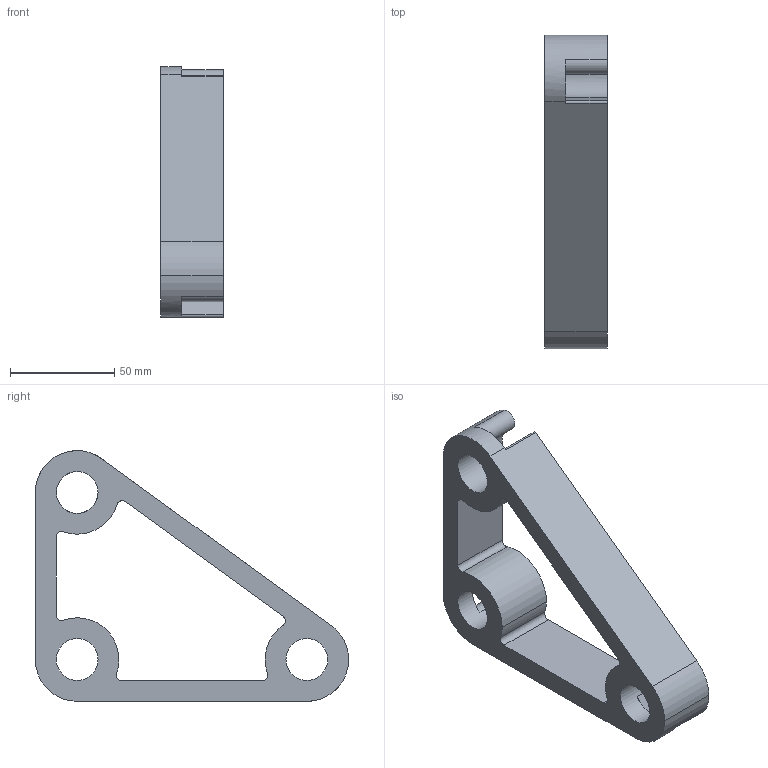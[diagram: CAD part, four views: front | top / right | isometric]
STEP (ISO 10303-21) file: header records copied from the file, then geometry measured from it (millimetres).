
FILE_DESCRIPTION(('HOOPS Exchange Step'),'2;1');
FILE_NAME('/private/var/mobile/Containers/Data/Application/E34E9B9D-13F5-4398-A6D4-3D2E6F602CF2/tmp/export/temp_export','2023-02-19T17:34:32-06:00',('mobile'),('Shapr3D Limited'),'HOOPS Exchange 2022.2','Shapr3D','Authorized');
FILE_SCHEMA( ('AUTOMOTIVE_DESIGN { 1 0 10303 214 1 1 1 1 }') );
Length unit declared in the file: millimetre
Products named in the file (1): root
Bounding box: 30 x 150 x 120 mm (x, y, z)
Volume: 151936.2 mm3; surface area: 39261.3 mm2
Topology: 1 solids, 1 shells, 41 faces, 129 edges, 87 vertices
Faces by surface type: cylinder 27, plane 14
Full cylindrical faces by diameter (mm): 20 x3
Entity records: 1513 total; most frequent: DIRECTION 279, CARTESIAN_POINT 258, ORIENTED_EDGE 258, EDGE_CURVE 129, AXIS2_PLACEMENT_3D 108, VERTEX_POINT 87, CIRCLE 66, VECTOR 63
